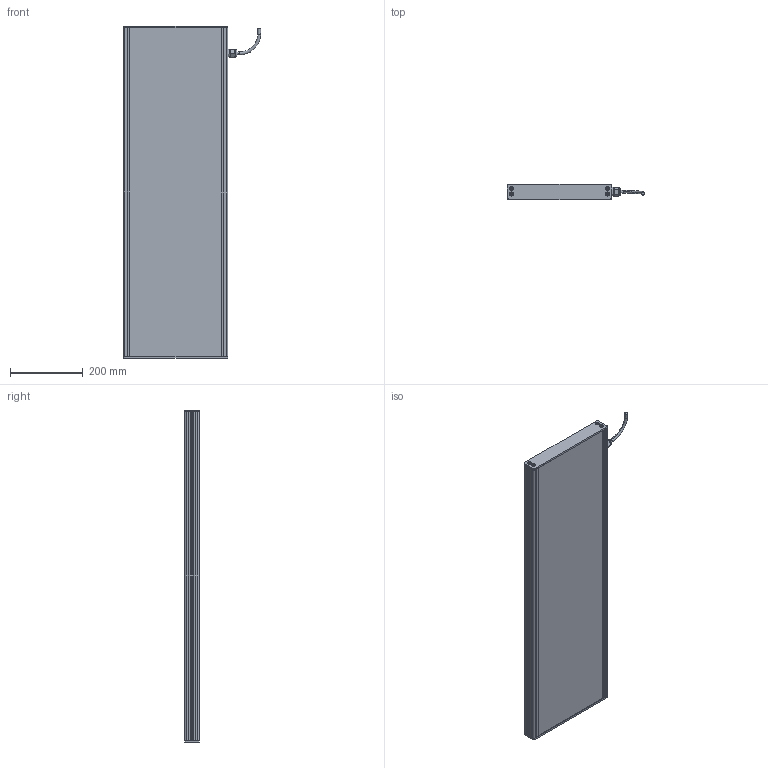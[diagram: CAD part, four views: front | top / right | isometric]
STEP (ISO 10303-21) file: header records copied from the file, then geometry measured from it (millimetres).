
FILE_DESCRIPTION (( 'STEP AP214' ), '1' );
FILE_NAME ('EFFI-BL-250-900T-1M12P.STEP', '2021-07-02T09:53:33', ( '' ), ( '' ), 'SwSTEP 2.0', 'SolidWorks 2021', '' );
FILE_SCHEMA (( 'AUTOMOTIVE_DESIGN' ));
Length unit declared in the file: millimetre
Products named in the file (7): Pièce2^EFFI-BL-XXX-YYYT + M12P; EFFI-BL-250-900T-1M12P; bord fin modif_lg 436.5 mm; 003776; profile modif_lg 99.5 mm; M12 power
Assembly tree (14 placements, depth 2):
  EFFI-BL-250-900T-1M12P
    bord fin modif_lg 436.5 mm  x2
    profile modif_lg 99.5 mm
    Pièce2^EFFI-BL-XXX-YYYT + M12P
    profile modif_lg 99.5 mm
    M12 power
    003776  x8
Bounding box: 376.45 x 40 x 910 mm (x, y, z)
Volume: 8966144.3 mm3; surface area: 848941.7 mm2
Topology: 13 solids, 16 shells, 568 faces, 1441 edges, 923 vertices
Faces by surface type: plane 327, bspline 125, cylinder 94, cone 18, torus 4
Entity records: 15235 total; most frequent: CARTESIAN_POINT 5059, ORIENTED_EDGE 2014, DIRECTION 1715, EDGE_CURVE 1009, LINE 755, VECTOR 755, VERTEX_POINT 666, AXIS2_PLACEMENT_3D 480
